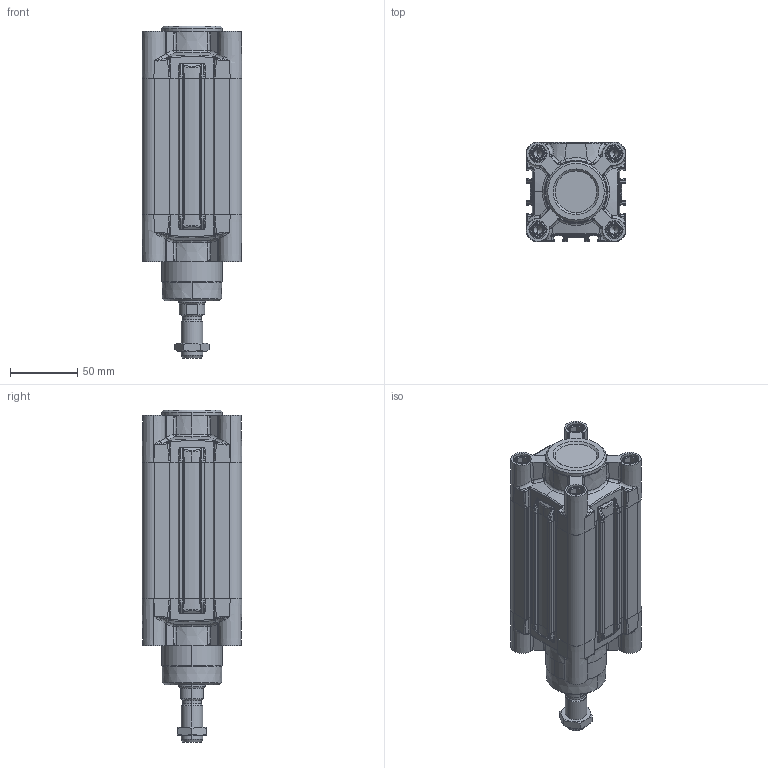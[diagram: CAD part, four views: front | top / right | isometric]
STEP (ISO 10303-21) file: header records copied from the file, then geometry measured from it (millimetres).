
FILE_DESCRIPTION (( 'STEP AP203' ), '1' );
FILE_NAME ('XB0630025A.step', '2012-10-17T18:37:14', ( '' ), ( '' ), 'SwSTEP 2.0', 'SolidWorks 2012', '' );
FILE_SCHEMA (( 'CONFIG_CONTROL_DESIGN' ));
Length unit declared in the file: millimetre
Products named in the file (1): XB0630025A
Bounding box: 73.98 x 73.98 x 246.5 mm (x, y, z)
Volume: 628813.8 mm3; surface area: 162310.7 mm2
Topology: 13 solids, 13 shells, 1341 faces, 3365 edges, 2051 vertices
Faces by surface type: bspline 431, cylinder 361, plane 339, cone 210
Entity records: 62320 total; most frequent: CARTESIAN_POINT 34119, ORIENTED_EDGE 6642, DIRECTION 4816, EDGE_CURVE 3321, VERTEX_POINT 2051, AXIS2_PLACEMENT_3D 1792, EDGE_LOOP 1414, FACE_OUTER_BOUND 1341
